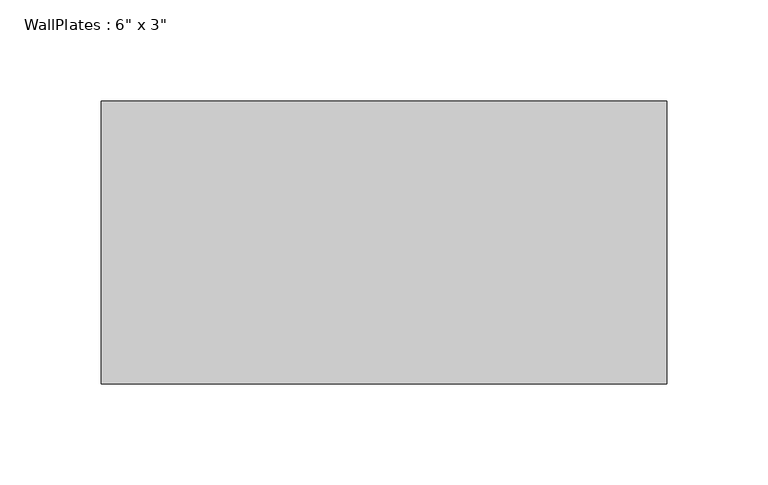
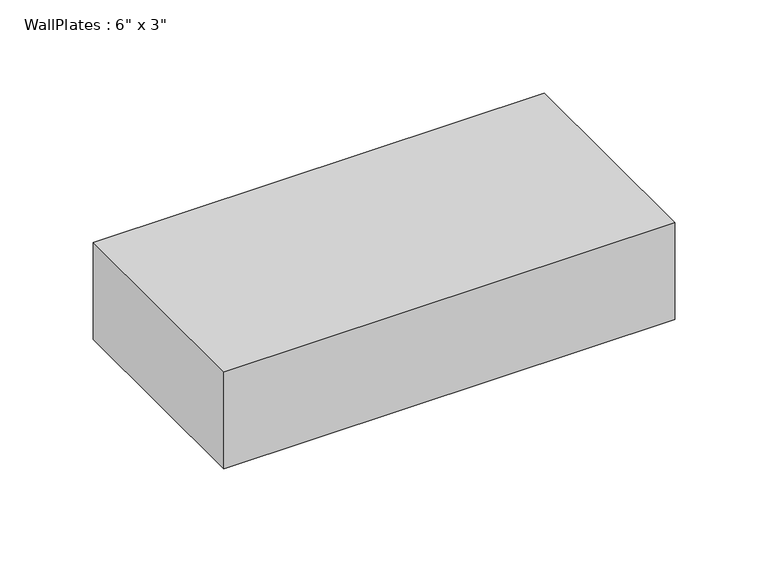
"""IFC4 building model written with IfcOpenShell, lengths in millimetres: beam geometry."""

from ifc_helpers import new_model, si_unit, frame, origin, place, context, project, spatial, polyline, outline, extrude, source, transform, mapped, element, save


def beam_13466e1a(model_context):
    return source(origin(), model_context, "Body", "SweptSolid", [
        extrude(outline(polyline([(-139.6666016, -69.85), (-139.6666016, 69.85), (139.6666016, 69.85), (139.6666016, -69.85), (-139.6666016, -69.85)])), frame((0.0, 0.0, -31.75), z_axis=(0.0, 0.0, 1.0), x_axis=(1.0, 0.0, 0.0)), (0.0, 0.0, 1.0), 63.5),
    ])


if __name__ == "__main__":
    model = new_model("IFC4")
    model_context = context("Model", 3, world=origin())
    ifc_project = project(units=[si_unit("LENGTHUNIT", "METRE", prefix="MILLI")], contexts=[model_context])
    site = spatial("IfcSite", under=ifc_project)
    building = spatial("IfcBuilding", under=site)
    placement = place(None, origin())
    beam_shape = beam_13466e1a(model_context)
    element("IfcBeam", 1, ObjectType="WallPlates : 6\" x 3\"", at=placement, inside=building, context=model_context, shape_type="MappedRepresentation", body=[
        mapped(beam_shape, transform((0.0, 0.0, 0.0), x_axis=(1.0, 0.0, 0.0), y_axis=(0.0, 1.0, 0.0), z_axis=(0.0, 0.0, 1.0))),
    ])
    save(model, "model.ifc")
